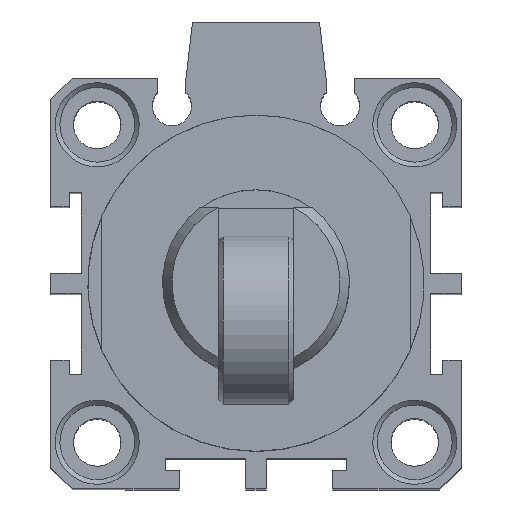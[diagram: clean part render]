
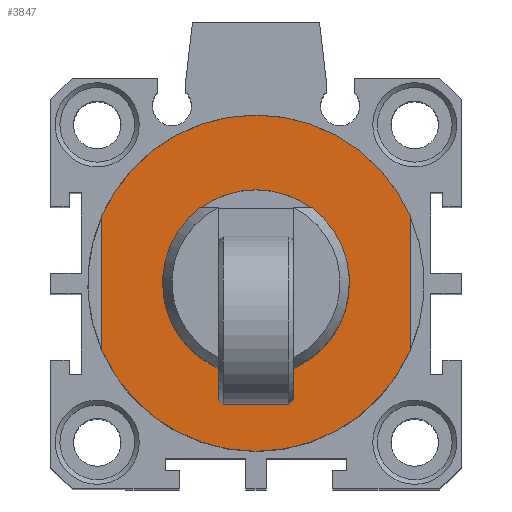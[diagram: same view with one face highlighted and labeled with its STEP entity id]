
A CAD part, top view. The second image highlights one B-rep face of the part: STEP entity #3847.
In plain terms, the highlighted planar face has unit normal (0, 0, 1).
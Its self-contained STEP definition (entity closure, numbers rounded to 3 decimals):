
#354=CARTESIAN_POINT('',(-9.726,7.88,83.0));
#355=VERTEX_POINT('',#354);
#362=CARTESIAN_POINT('',(2.274,7.88,83.0));
#363=VERTEX_POINT('',#362);
#364=CARTESIAN_POINT('',(-3.726,-0.12,83.0));
#365=DIRECTION('',(0.0,0.0,-1.0));
#366=DIRECTION('',(0.0,1.0,0.0));
#367=AXIS2_PLACEMENT_3D('',#364,#365,#366);
#368=CIRCLE('',#367,10.0);
#369=EDGE_CURVE('',#363,#355,#368,.T.);
#3393=CARTESIAN_POINT('',(12.774,-7.314,83.0));
#3394=VERTEX_POINT('',#3393);
#3401=CARTESIAN_POINT('',(-20.226,-7.314,83.0));
#3402=VERTEX_POINT('',#3401);
#3403=CARTESIAN_POINT('',(-3.726,-0.12,83.0));
#3404=DIRECTION('',(0.0,0.0,-1.0));
#3405=DIRECTION('',(0.0,1.0,0.0));
#3406=AXIS2_PLACEMENT_3D('',#3403,#3404,#3405);
#3407=CIRCLE('',#3406,18.);
#3408=EDGE_CURVE('',#3394,#3402,#3407,.T.);
#3427=CARTESIAN_POINT('',(-20.226,7.074,83.0));
#3428=VERTEX_POINT('',#3427);
#3435=CARTESIAN_POINT('',(12.774,7.074,83.0));
#3436=VERTEX_POINT('',#3435);
#3437=CARTESIAN_POINT('',(-3.726,-0.12,83.0));
#3438=DIRECTION('',(0.0,0.0,-1.0));
#3439=DIRECTION('',(0.0,1.0,0.0));
#3440=AXIS2_PLACEMENT_3D('',#3437,#3438,#3439);
#3441=CIRCLE('',#3440,18.);
#3442=EDGE_CURVE('',#3428,#3436,#3441,.T.);
#3816=CARTESIAN_POINT('',(-3.726,13.88,83.0));
#3817=DIRECTION('',(0.0,0.0,1.0));
#3818=DIRECTION('',(1.0,0.0,0.0));
#3819=AXIS2_PLACEMENT_3D('',#3816,#3817,#3818);
#3820=PLANE('',#3819);
#3821=CARTESIAN_POINT('',(12.774,-7.314,83.0));
#3822=DIRECTION('',(0.0,1.0,0.0));
#3823=VECTOR('',#3822,14.387);
#3824=LINE('',#3821,#3823);
#3825=EDGE_CURVE('',#3394,#3436,#3824,.T.);
#3826=ORIENTED_EDGE('',*,*,#3825,.T.);
#3827=ORIENTED_EDGE('',*,*,#3442,.F.);
#3828=CARTESIAN_POINT('',(-20.226,7.074,83.0));
#3829=DIRECTION('',(0.0,-1.0,0.0));
#3830=VECTOR('',#3829,14.387);
#3831=LINE('',#3828,#3830);
#3832=EDGE_CURVE('',#3428,#3402,#3831,.T.);
#3833=ORIENTED_EDGE('',*,*,#3832,.T.);
#3834=ORIENTED_EDGE('',*,*,#3408,.F.);
#3835=EDGE_LOOP('',(#3826,#3827,#3833,#3834));
#3836=FACE_OUTER_BOUND('',#3835,.T.);
#3837=CARTESIAN_POINT('',(-3.726,-0.12,83.0));
#3838=DIRECTION('',(0.0,0.0,-1.0));
#3839=DIRECTION('',(0.0,1.0,0.0));
#3840=AXIS2_PLACEMENT_3D('',#3837,#3838,#3839);
#3841=CIRCLE('',#3840,10.0);
#3842=EDGE_CURVE('',#355,#363,#3841,.T.);
#3843=ORIENTED_EDGE('',*,*,#3842,.T.);
#3844=ORIENTED_EDGE('',*,*,#369,.T.);
#3845=EDGE_LOOP('',(#3843,#3844));
#3846=FACE_BOUND('',#3845,.T.);
#3847=ADVANCED_FACE('',(#3836,#3846),#3820,.T.);
